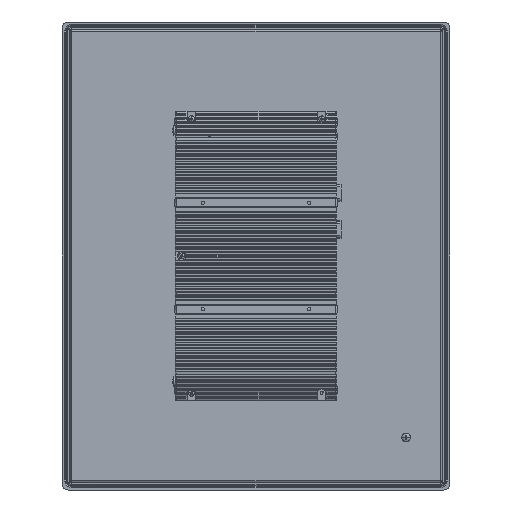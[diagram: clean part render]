
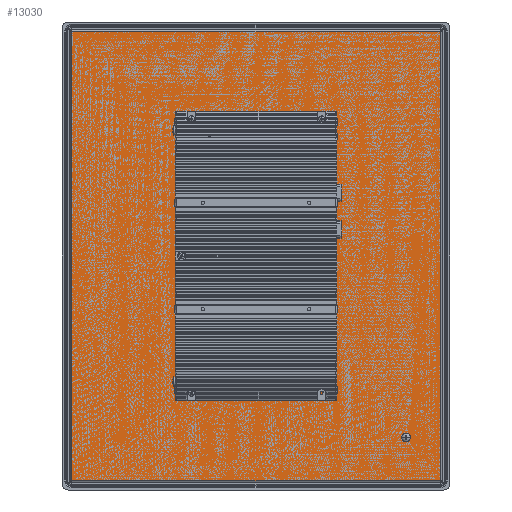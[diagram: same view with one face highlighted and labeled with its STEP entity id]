
A CAD part, left-side view. The second image highlights one B-rep face of the part: STEP entity #13030.
In plain terms, the highlighted planar face has unit normal (-1, 0, 0).
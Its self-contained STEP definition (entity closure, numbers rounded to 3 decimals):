
#1933=DIRECTION('',(0.,0.,-1.));
#1934=VECTOR('',#1933,266.628);
#1935=CARTESIAN_POINT('',(-22.2,75.,133.314));
#1936=LINE('',#1935,#1934);
#1937=DIRECTION('',(0.,1.,0.));
#1938=VECTOR('',#1937,1.);
#1939=CARTESIAN_POINT('',(-22.2,75.,133.314));
#1940=LINE('',#1939,#1938);
#1941=DIRECTION('',(0.,0.,-1.));
#1942=VECTOR('',#1941,266.628);
#1943=CARTESIAN_POINT('',(-22.2,76.,133.314));
#1944=LINE('',#1943,#1942);
#1945=DIRECTION('',(0.,-1.,0.));
#1946=VECTOR('',#1945,1.);
#1947=CARTESIAN_POINT('',(-22.2,76.,-133.314));
#1948=LINE('',#1947,#1946);
#1949=CARTESIAN_POINT('',(-22.2,-141.075,-170.575));
#1950=DIRECTION('',(-1.,0.,0.));
#1951=DIRECTION('',(0.,1.,0.001));
#1952=AXIS2_PLACEMENT_3D('',#1949,#1950,#1951);
#1954=CARTESIAN_POINT('',(-22.2,-141.075,-170.575));
#1955=DIRECTION('',(-1.,0.,0.));
#1956=DIRECTION('',(0.,-1.,-0.001));
#1957=AXIS2_PLACEMENT_3D('',#1954,#1955,#1956);
#1980=DIRECTION('',(0.,-1.,0.));
#1981=VECTOR('',#1980,346.35);
#1982=CARTESIAN_POINT('',(-22.2,173.175,-211.175));
#1983=LINE('',#1982,#1981);
#3727=DIRECTION('',(0.,0.,1.));
#3728=VECTOR('',#3727,422.35);
#3729=CARTESIAN_POINT('',(-22.2,-173.175,-211.175));
#3730=LINE('',#3729,#3728);
#3743=DIRECTION('',(0.,1.,0.));
#3744=VECTOR('',#3743,346.35);
#3745=CARTESIAN_POINT('',(-22.2,-173.175,211.175));
#3746=LINE('',#3745,#3744);
#3797=DIRECTION('',(0.,0.,-1.));
#3798=VECTOR('',#3797,422.35);
#3799=CARTESIAN_POINT('',(-22.2,173.175,211.175));
#3800=LINE('',#3799,#3798);
#9584=CARTESIAN_POINT('',(-22.2,-173.175,211.175));
#9586=VERTEX_POINT('',#9584);
#9592=CARTESIAN_POINT('',(-22.2,173.175,211.175));
#9593=VERTEX_POINT('',#9592);
#9595=CARTESIAN_POINT('',(-22.2,173.175,-211.175));
#9596=CARTESIAN_POINT('',(-22.2,-173.175,-211.175));
#9597=VERTEX_POINT('',#9595);
#9598=VERTEX_POINT('',#9596);
#10485=CARTESIAN_POINT('',(-22.2,75.,133.314));
#10486=CARTESIAN_POINT('',(-22.2,75.,-133.314));
#10487=VERTEX_POINT('',#10485);
#10488=VERTEX_POINT('',#10486);
#10489=CARTESIAN_POINT('',(-22.2,76.,-133.314));
#10490=VERTEX_POINT('',#10489);
#10491=CARTESIAN_POINT('',(-22.2,76.,133.314));
#10492=VERTEX_POINT('',#10491);
#10981=CARTESIAN_POINT('',(-22.2,-137.075,-170.571));
#10982=CARTESIAN_POINT('',(-22.2,-145.075,-170.579));
#10983=VERTEX_POINT('',#10981);
#10984=VERTEX_POINT('',#10982);
#13002=CARTESIAN_POINT('',(-22.2,0.,0.));
#13003=DIRECTION('',(1.,0.,0.));
#13004=DIRECTION('',(0.,0.,-1.));
#13005=AXIS2_PLACEMENT_3D('',#13002,#13003,#13004);
#13006=PLANE('',#13005);
#13008=ORIENTED_EDGE('',*,*,#13007,.F.);
#13010=ORIENTED_EDGE('',*,*,#13009,.F.);
#13012=ORIENTED_EDGE('',*,*,#13011,.F.);
#13014=ORIENTED_EDGE('',*,*,#13013,.F.);
#13015=EDGE_LOOP('',(#13008,#13010,#13012,#13014));
#13016=FACE_OUTER_BOUND('',#13015,.F.);
#13017=ORIENTED_EDGE('',*,*,#11205,.F.);
#13018=ORIENTED_EDGE('',*,*,#12993,.T.);
#13019=ORIENTED_EDGE('',*,*,#11620,.T.);
#13021=ORIENTED_EDGE('',*,*,#13020,.T.);
#13022=EDGE_LOOP('',(#13017,#13018,#13019,#13021));
#13023=FACE_BOUND('',#13022,.F.);
#13025=ORIENTED_EDGE('',*,*,#13024,.T.);
#13027=ORIENTED_EDGE('',*,*,#13026,.T.);
#13028=EDGE_LOOP('',(#13025,#13027));
#13029=FACE_BOUND('',#13028,.F.);
#13030=ADVANCED_FACE('',(#13016,#13023,#13029),#13006,.F.);
#1953=CIRCLE('',#1952,4.);
#1958=CIRCLE('',#1957,4.);
#11205=EDGE_CURVE('',#10487,#10488,#1936,.T.);
#11620=EDGE_CURVE('',#10492,#10490,#1944,.T.);
#12993=EDGE_CURVE('',#10487,#10492,#1940,.T.);
#13007=EDGE_CURVE('',#9597,#9598,#1983,.T.);
#13009=EDGE_CURVE('',#9593,#9597,#3800,.T.);
#13011=EDGE_CURVE('',#9586,#9593,#3746,.T.);
#13013=EDGE_CURVE('',#9598,#9586,#3730,.T.);
#13020=EDGE_CURVE('',#10490,#10488,#1948,.T.);
#13024=EDGE_CURVE('',#10983,#10984,#1953,.T.);
#13026=EDGE_CURVE('',#10984,#10983,#1958,.T.);
